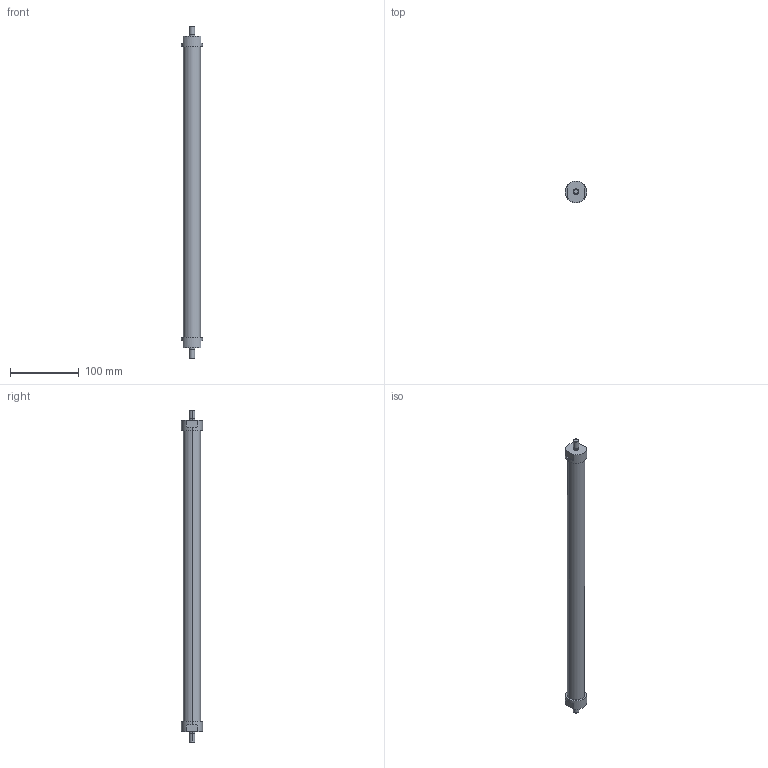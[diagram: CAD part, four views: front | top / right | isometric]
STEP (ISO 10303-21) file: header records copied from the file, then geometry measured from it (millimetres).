
FILE_DESCRIPTION(('STEP AP214'),'1');
FILE_NAME('ETT-R050N464.stp','2015-02-02T15:41:14',(' '),(' '),'Spatial InterOp 3D',' ',' ');
FILE_SCHEMA(('automotive_design'));
Length unit declared in the file: metre
Products named in the file (3): 1; 2; 3
Bounding box: 31 x 31 x 484 mm (x, y, z)
Volume: 231136.5 mm3; surface area: 39528.2 mm2
Topology: 1 solids, 7 shells, 30 faces, 81 edges, 63 vertices
Faces by surface type: plane 16, cylinder 14
Entity records: 1295 total; most frequent: DIRECTION 194, CARTESIAN_POINT 177, ORIENTED_EDGE 138, EDGE_CURVE 81, AXIS2_PLACEMENT_3D 80, VERTEX_POINT 63, CIRCLE 47, EDGE_LOOP 36
